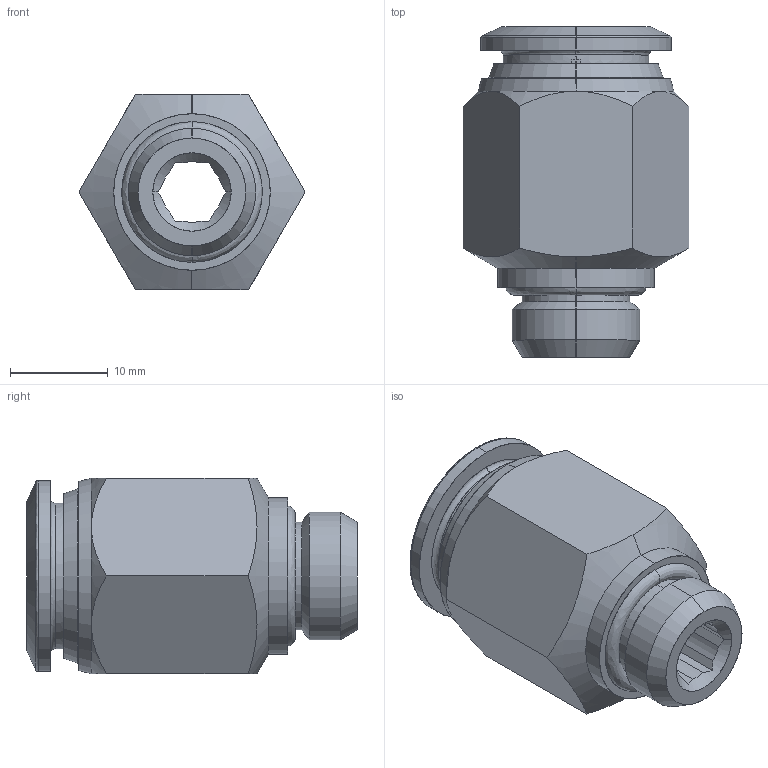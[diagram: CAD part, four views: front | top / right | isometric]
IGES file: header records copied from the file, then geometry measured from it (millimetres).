
Start section: SolidWorks IGES file using analytic representation for surfaces
Global section: file name: K:\Disegni Esecutivi\SERIE 40000\ASSIEMI\40020\IGES e STEP\40020V0032A.IGS; native system: SolidWorks 2020; preprocessor: SolidWorks 2020; author: CAD13; date: 241021.155607; units: millimetre
Bounding box: 23.09 x 33.8 x 20 mm (x, y, z)
Surface area: 3785.2 mm2 (no closed solid volume)
Topology: 0 solids, 0 shells, 79 faces, 902 edges, 902 vertices
Faces by surface type: revolution 43, bspline 36
